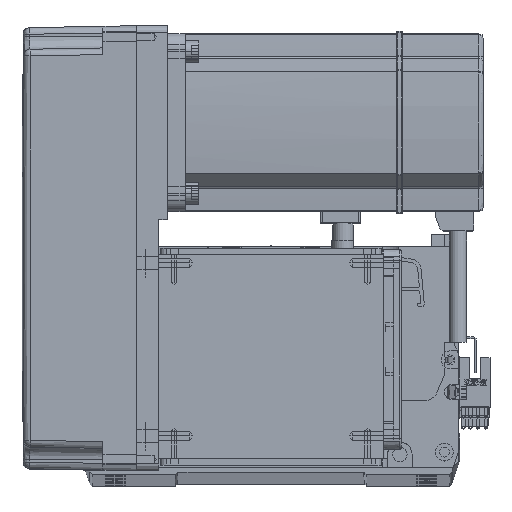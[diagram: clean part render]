
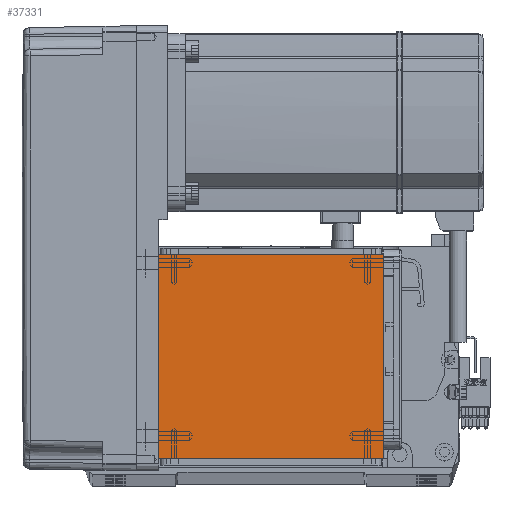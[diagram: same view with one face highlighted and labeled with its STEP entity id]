
A CAD part, top view. The second image highlights one B-rep face of the part: STEP entity #37331.
In plain terms, the highlighted planar face has unit normal (0, 0, 1).
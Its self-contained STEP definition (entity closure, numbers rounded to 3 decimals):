
#344 = CARTESIAN_POINT ( 'NONE',  ( -70.004, 111.5, 115. ) ) ;
#5079 = VECTOR ( 'NONE', #19914, 1000. ) ;
#5429 = AXIS2_PLACEMENT_3D ( 'NONE', #56254, #30854, #46128 ) ;
#5565 = LINE ( 'NONE', #344, #37403 ) ;
#8584 = CARTESIAN_POINT ( 'NONE',  ( 50.5, 20., 115. ) ) ;
#10535 = DIRECTION ( 'NONE',  ( 1., 0., 0. ) ) ;
#13090 = ORIENTED_EDGE ( 'NONE', *, *, #39568, .F. ) ;
#17681 = CARTESIAN_POINT ( 'NONE',  ( -50.5, 111.5, 115. ) ) ;
#19914 = DIRECTION ( 'NONE',  ( 0., -1., 0. ) ) ;
#22133 = DIRECTION ( 'NONE',  ( -1., 0., 0. ) ) ;
#23526 = EDGE_CURVE ( 'NONE', #54786, #24200, #5565, .T. ) ;
#24162 = PLANE ( 'NONE',  #5429 ) ;
#24200 = VERTEX_POINT ( 'NONE', #28292 ) ;
#24386 = CARTESIAN_POINT ( 'NONE',  ( -50.5, 122., 115. ) ) ;
#27033 = VECTOR ( 'NONE', #22133, 1000. ) ;
#27680 = EDGE_CURVE ( 'NONE', #54786, #32603, #56712, .T. ) ;
#28292 = CARTESIAN_POINT ( 'NONE',  ( 50.5, 111.5, 115. ) ) ;
#30854 = DIRECTION ( 'NONE',  ( 0., 0., 1. ) ) ;
#32603 = VERTEX_POINT ( 'NONE', #55847 ) ;
#35801 = VERTEX_POINT ( 'NONE', #8584 ) ;
#36128 = ORIENTED_EDGE ( 'NONE', *, *, #23526, .F. ) ;
#37331 = ADVANCED_FACE ( 'NONE', ( #59860 ), #24162, .T. ) ;
#37403 = VECTOR ( 'NONE', #10535, 1000. ) ;
#37440 = CARTESIAN_POINT ( 'NONE',  ( 50.5, 122., 115. ) ) ;
#39568 = EDGE_CURVE ( 'NONE', #35801, #32603, #42849, .T. ) ;
#41212 = EDGE_LOOP ( 'NONE', ( #36128, #59836, #13090, #41871 ) ) ;
#41871 = ORIENTED_EDGE ( 'NONE', *, *, #57241, .T. ) ;
#42281 = CARTESIAN_POINT ( 'NONE',  ( -70.004, 20., 115. ) ) ;
#42849 = LINE ( 'NONE', #42281, #27033 ) ;
#46128 = DIRECTION ( 'NONE',  ( 1., 0., 0. ) ) ;
#54786 = VERTEX_POINT ( 'NONE', #17681 ) ;
#55847 = CARTESIAN_POINT ( 'NONE',  ( -50.5, 20., 115. ) ) ;
#56254 = CARTESIAN_POINT ( 'NONE',  ( 0., 0., 115. ) ) ;
#56712 = LINE ( 'NONE', #24386, #5079 ) ;
#57241 = EDGE_CURVE ( 'NONE', #35801, #24200, #58749, .T. ) ;
#58245 = DIRECTION ( 'NONE',  ( 0., 1., 0. ) ) ;
#58749 = LINE ( 'NONE', #37440, #61206 ) ;
#59836 = ORIENTED_EDGE ( 'NONE', *, *, #27680, .T. ) ;
#59860 = FACE_OUTER_BOUND ( 'NONE', #41212, .T. ) ;
#61206 = VECTOR ( 'NONE', #58245, 1000. ) ;
